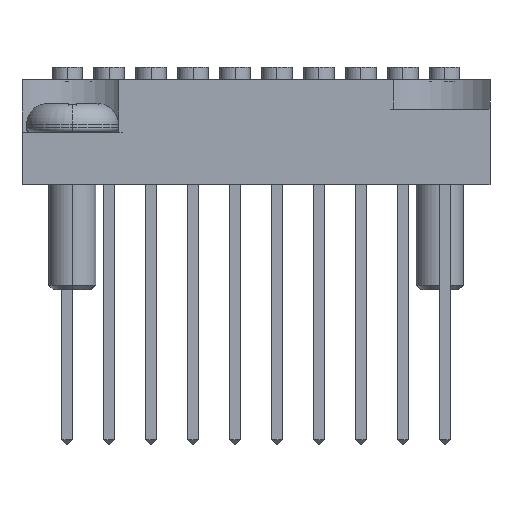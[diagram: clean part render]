
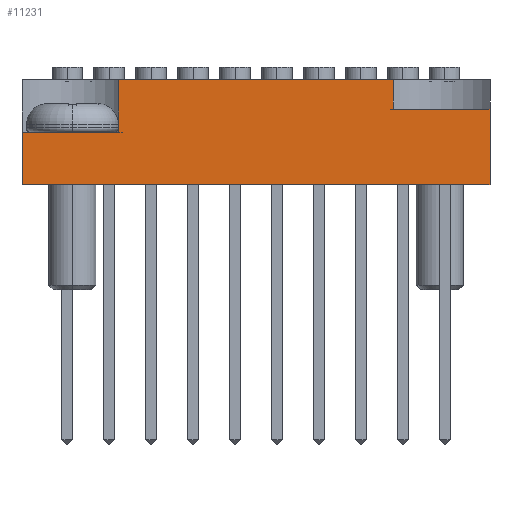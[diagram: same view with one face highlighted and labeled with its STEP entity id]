
A CAD part, front view. The second image highlights one B-rep face of the part: STEP entity #11231.
In plain terms, the highlighted planar face has unit normal (0, -1, 0).
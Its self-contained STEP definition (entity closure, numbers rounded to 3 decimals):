
#588 = DIRECTION ( 'NONE',  ( -1., 0., 0. ) ) ;
#726 = DIRECTION ( 'NONE',  ( 1., 0., 0. ) ) ;
#1634 = VECTOR ( 'NONE', #726, 1000. ) ;
#1669 = VECTOR ( 'NONE', #1894, 1000. ) ;
#1894 = DIRECTION ( 'NONE',  ( 0., 0., -1. ) ) ;
#1924 = LINE ( 'NONE', #28969, #28510 ) ;
#2940 = DIRECTION ( 'NONE',  ( 0., 0., -1. ) ) ;
#3460 = CARTESIAN_POINT ( 'NONE',  ( -14.16, -29.655, 0. ) ) ;
#4923 = CARTESIAN_POINT ( 'NONE',  ( 8.303, -29.655, 3.175 ) ) ;
#6913 = LINE ( 'NONE', #16098, #12927 ) ;
#7363 = ORIENTED_EDGE ( 'NONE', *, *, #32770, .T. ) ;
#8342 = DIRECTION ( 'NONE',  ( 1., 0., 0. ) ) ;
#9592 = ORIENTED_EDGE ( 'NONE', *, *, #23354, .F. ) ;
#9988 = LINE ( 'NONE', #27279, #23680 ) ;
#10584 = VERTEX_POINT ( 'NONE', #14425 ) ;
#11024 = VECTOR ( 'NONE', #2940, 1000. ) ;
#11231 = ADVANCED_FACE ( 'NONE', ( #25258 ), #22642, .F. ) ;
#11551 = LINE ( 'NONE', #18639, #17580 ) ;
#12055 = EDGE_CURVE ( 'NONE', #30530, #13697, #11551, .T. ) ;
#12927 = VECTOR ( 'NONE', #8342, 1000. ) ;
#13697 = VERTEX_POINT ( 'NONE', #31591 ) ;
#14425 = CARTESIAN_POINT ( 'NONE',  ( -8.303, -29.655, 3.175 ) ) ;
#14562 = LINE ( 'NONE', #14729, #1669 ) ;
#14729 = CARTESIAN_POINT ( 'NONE',  ( -8.303, -29.655, 3.175 ) ) ;
#14751 = VERTEX_POINT ( 'NONE', #3460 ) ;
#14955 = DIRECTION ( 'NONE',  ( 0., 1., 0. ) ) ;
#15004 = ORIENTED_EDGE ( 'NONE', *, *, #32994, .T. ) ;
#16098 = CARTESIAN_POINT ( 'NONE',  ( -14.16, -29.655, 3.175 ) ) ;
#17095 = EDGE_CURVE ( 'NONE', #10584, #19923, #14562, .T. ) ;
#17580 = VECTOR ( 'NONE', #588, 1000. ) ;
#17876 = LINE ( 'NONE', #18294, #11024 ) ;
#18093 = ORIENTED_EDGE ( 'NONE', *, *, #12055, .T. ) ;
#18294 = CARTESIAN_POINT ( 'NONE',  ( 14.16, -29.655, 3.175 ) ) ;
#18639 = CARTESIAN_POINT ( 'NONE',  ( -14.16, -29.655, 1.397 ) ) ;
#18741 = DIRECTION ( 'NONE',  ( 0., 0., -1. ) ) ;
#19121 = DIRECTION ( 'NONE',  ( -1., 0., 0. ) ) ;
#19786 = ORIENTED_EDGE ( 'NONE', *, *, #30384, .T. ) ;
#19923 = VERTEX_POINT ( 'NONE', #27170 ) ;
#21065 = EDGE_CURVE ( 'NONE', #30530, #23503, #17876, .T. ) ;
#21712 = VERTEX_POINT ( 'NONE', #4923 ) ;
#22203 = LINE ( 'NONE', #31604, #1634 ) ;
#22642 = PLANE ( 'NONE',  #31436 ) ;
#23354 = EDGE_CURVE ( 'NONE', #10584, #21712, #6913, .T. ) ;
#23503 = VERTEX_POINT ( 'NONE', #27134 ) ;
#23680 = VECTOR ( 'NONE', #29852, 1000. ) ;
#24124 = ORIENTED_EDGE ( 'NONE', *, *, #29391, .T. ) ;
#25258 = FACE_OUTER_BOUND ( 'NONE', #27657, .T. ) ;
#25810 = LINE ( 'NONE', #31957, #32653 ) ;
#25825 = ORIENTED_EDGE ( 'NONE', *, *, #17095, .T. ) ;
#26314 = VERTEX_POINT ( 'NONE', #29414 ) ;
#27099 = CARTESIAN_POINT ( 'NONE',  ( 14.16, -29.655, 1.397 ) ) ;
#27134 = CARTESIAN_POINT ( 'NONE',  ( 14.16, -29.655, -3.175 ) ) ;
#27170 = CARTESIAN_POINT ( 'NONE',  ( -8.303, -29.655, 0. ) ) ;
#27279 = CARTESIAN_POINT ( 'NONE',  ( 8.303, -29.655, 3.175 ) ) ;
#27657 = EDGE_LOOP ( 'NONE', ( #32039, #18093, #15004, #9592, #25825, #24124, #7363, #19786 ) ) ;
#28510 = VECTOR ( 'NONE', #18741, 1000. ) ;
#28969 = CARTESIAN_POINT ( 'NONE',  ( -14.16, -29.655, 3.175 ) ) ;
#29391 = EDGE_CURVE ( 'NONE', #19923, #14751, #25810, .T. ) ;
#29414 = CARTESIAN_POINT ( 'NONE',  ( -14.16, -29.655, -3.175 ) ) ;
#29852 = DIRECTION ( 'NONE',  ( 0., 0., 1. ) ) ;
#30384 = EDGE_CURVE ( 'NONE', #26314, #23503, #22203, .T. ) ;
#30392 = CARTESIAN_POINT ( 'NONE',  ( -14.16, -29.655, 3.175 ) ) ;
#30530 = VERTEX_POINT ( 'NONE', #27099 ) ;
#31436 = AXIS2_PLACEMENT_3D ( 'NONE', #30392, #14955, #32974 ) ;
#31591 = CARTESIAN_POINT ( 'NONE',  ( 8.303, -29.655, 1.397 ) ) ;
#31604 = CARTESIAN_POINT ( 'NONE',  ( -14.16, -29.655, -3.175 ) ) ;
#31957 = CARTESIAN_POINT ( 'NONE',  ( -14.16, -29.655, 0. ) ) ;
#32039 = ORIENTED_EDGE ( 'NONE', *, *, #21065, .F. ) ;
#32653 = VECTOR ( 'NONE', #19121, 1000. ) ;
#32770 = EDGE_CURVE ( 'NONE', #14751, #26314, #1924, .T. ) ;
#32974 = DIRECTION ( 'NONE',  ( 0., 0., 1. ) ) ;
#32994 = EDGE_CURVE ( 'NONE', #13697, #21712, #9988, .T. ) ;
